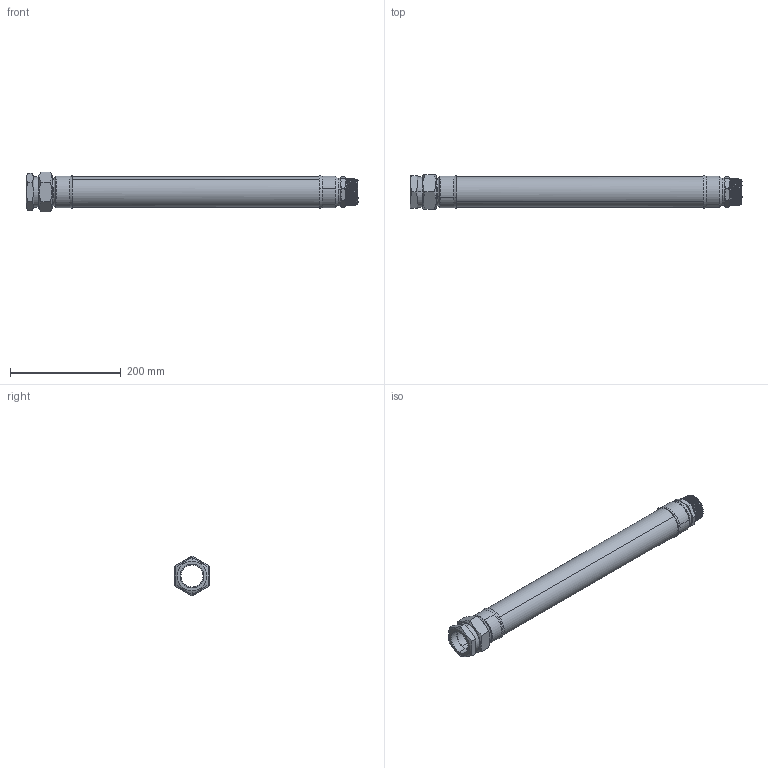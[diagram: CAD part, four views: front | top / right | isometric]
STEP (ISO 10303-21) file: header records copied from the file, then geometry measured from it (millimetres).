
FILE_DESCRIPTION (( 'STEP AP203' ), '1' );
FILE_NAME ('KP_T40-6S.step', '2011-08-08T11:46:54', ( '' ), ( '' ), 'SwSTEP 2.0', 'SolidWorks 2011', '' );
FILE_SCHEMA (( 'CONFIG_CONTROL_DESIGN' ));
Length unit declared in the file: millimetre
Products named in the file (1): KP_T40-6S
Bounding box: 600 x 62 x 71.59 mm (x, y, z)
Volume: 326556.5 mm3; surface area: 213827.2 mm2
Topology: 1 solids, 2 shells, 154 faces, 384 edges, 246 vertices
Faces by surface type: cone 66, plane 54, cylinder 26, bspline 8
Entity records: 17197 total; most frequent: CARTESIAN_POINT 13592, ORIENTED_EDGE 768, DIRECTION 680, EDGE_CURVE 384, AXIS2_PLACEMENT_3D 268, VERTEX_POINT 246, EDGE_LOOP 170, FACE_OUTER_BOUND 154
